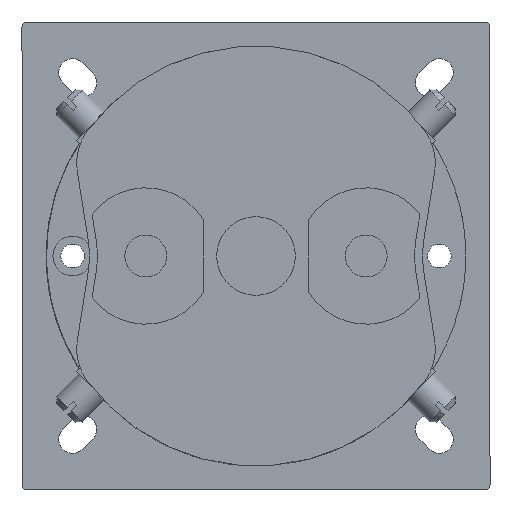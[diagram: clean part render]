
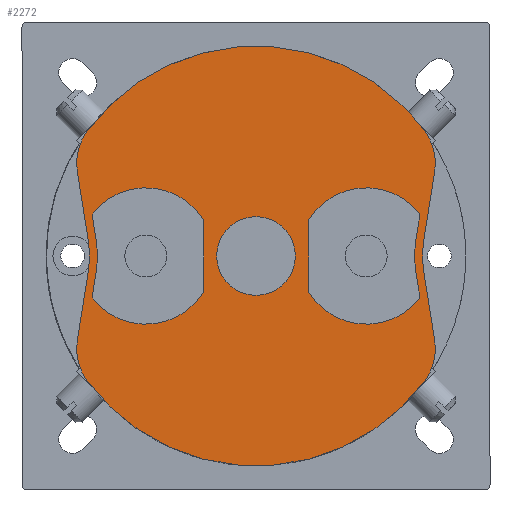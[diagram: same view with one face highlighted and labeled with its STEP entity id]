
A CAD part, front view. The second image highlights one B-rep face of the part: STEP entity #2272.
In plain terms, the highlighted planar face has unit normal (0, -1, 0).
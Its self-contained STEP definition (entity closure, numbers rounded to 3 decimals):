
#1221=FACE_BOUND('',#5984,.T.);
#1222=FACE_BOUND('',#5985,.T.);
#1223=FACE_BOUND('',#5986,.T.);
#1224=FACE_BOUND('',#5987,.T.);
#2272=ADVANCED_FACE('',(#1221,#1222,#1223,#1224),#3331,.T.);
#3331=PLANE('',#25322);
#5984=EDGE_LOOP('',(#12137,#12138,#12139,#12140,#12141,#12142));
#5985=EDGE_LOOP('',(#12143,#12144,#12145,#12146,#12147,#12148));
#5986=EDGE_LOOP('',(#12149,#12150,#12151,#12152,#12153,#12154,#12155,#12156,
#12157,#12158,#12159,#12160));
#5987=EDGE_LOOP('',(#12161));
#6882=CIRCLE('',#25294,7.5);
#6883=CIRCLE('',#25296,13.);
#6884=CIRCLE('',#25299,21.5);
#6885=CIRCLE('',#25302,13.);
#6886=CIRCLE('',#25305,21.5);
#6887=CIRCLE('',#25308,13.);
#6888=CIRCLE('',#25311,13.);
#6889=CIRCLE('',#25314,10.);
#6890=CIRCLE('',#25315,20.);
#6891=CIRCLE('',#25316,10.);
#6892=CIRCLE('',#25317,40.);
#6893=CIRCLE('',#25318,10.);
#6894=CIRCLE('',#25319,20.);
#6895=CIRCLE('',#25320,10.);
#6896=CIRCLE('',#25321,40.);
#12137=ORIENTED_EDGE('',*,*,#18383,.T.);
#12138=ORIENTED_EDGE('',*,*,#18381,.T.);
#12139=ORIENTED_EDGE('',*,*,#18379,.T.);
#12140=ORIENTED_EDGE('',*,*,#18377,.T.);
#12141=ORIENTED_EDGE('',*,*,#18375,.T.);
#12142=ORIENTED_EDGE('',*,*,#18372,.T.);
#12143=ORIENTED_EDGE('',*,*,#18371,.F.);
#12144=ORIENTED_EDGE('',*,*,#18369,.F.);
#12145=ORIENTED_EDGE('',*,*,#18367,.F.);
#12146=ORIENTED_EDGE('',*,*,#18365,.F.);
#12147=ORIENTED_EDGE('',*,*,#18363,.F.);
#12148=ORIENTED_EDGE('',*,*,#18360,.F.);
#12149=ORIENTED_EDGE('',*,*,#18384,.T.);
#12150=ORIENTED_EDGE('',*,*,#18385,.T.);
#12151=ORIENTED_EDGE('',*,*,#18386,.T.);
#12152=ORIENTED_EDGE('',*,*,#18387,.T.);
#12153=ORIENTED_EDGE('',*,*,#18388,.T.);
#12154=ORIENTED_EDGE('',*,*,#18389,.T.);
#12155=ORIENTED_EDGE('',*,*,#18390,.T.);
#12156=ORIENTED_EDGE('',*,*,#18391,.T.);
#12157=ORIENTED_EDGE('',*,*,#18392,.T.);
#12158=ORIENTED_EDGE('',*,*,#18393,.T.);
#12159=ORIENTED_EDGE('',*,*,#18394,.T.);
#12160=ORIENTED_EDGE('',*,*,#18395,.T.);
#12161=ORIENTED_EDGE('',*,*,#18359,.F.);
#15329=VERTEX_POINT('',#39720);
#15330=VERTEX_POINT('',#39723);
#15331=VERTEX_POINT('',#39724);
#15332=VERTEX_POINT('',#39729);
#15333=VERTEX_POINT('',#39733);
#15334=VERTEX_POINT('',#39737);
#15335=VERTEX_POINT('',#39741);
#15336=VERTEX_POINT('',#39747);
#15337=VERTEX_POINT('',#39748);
#15338=VERTEX_POINT('',#39753);
#15339=VERTEX_POINT('',#39757);
#15340=VERTEX_POINT('',#39761);
#15341=VERTEX_POINT('',#39765);
#15342=VERTEX_POINT('',#39771);
#15343=VERTEX_POINT('',#39772);
#15344=VERTEX_POINT('',#39774);
#15345=VERTEX_POINT('',#39776);
#15346=VERTEX_POINT('',#39778);
#15347=VERTEX_POINT('',#39780);
#15348=VERTEX_POINT('',#39782);
#15349=VERTEX_POINT('',#39784);
#15350=VERTEX_POINT('',#39786);
#15351=VERTEX_POINT('',#39788);
#15352=VERTEX_POINT('',#39790);
#15353=VERTEX_POINT('',#39792);
#18359=EDGE_CURVE('',#15329,#15329,#6882,.T.);
#18360=EDGE_CURVE('',#15330,#15331,#6883,.T.);
#18363=EDGE_CURVE('',#15331,#15332,#20869,.T.);
#18365=EDGE_CURVE('',#15332,#15333,#6884,.T.);
#18367=EDGE_CURVE('',#15333,#15334,#20872,.T.);
#18369=EDGE_CURVE('',#15334,#15335,#6885,.T.);
#18371=EDGE_CURVE('',#15335,#15330,#20875,.T.);
#18372=EDGE_CURVE('',#15336,#15337,#6886,.T.);
#18375=EDGE_CURVE('',#15338,#15336,#20878,.T.);
#18377=EDGE_CURVE('',#15339,#15338,#6887,.T.);
#18379=EDGE_CURVE('',#15340,#15339,#20881,.T.);
#18381=EDGE_CURVE('',#15341,#15340,#6888,.T.);
#18383=EDGE_CURVE('',#15337,#15341,#20884,.T.);
#18384=EDGE_CURVE('',#15342,#15343,#6889,.T.);
#18385=EDGE_CURVE('',#15343,#15344,#20885,.T.);
#18386=EDGE_CURVE('',#15344,#15345,#6890,.T.);
#18387=EDGE_CURVE('',#15345,#15346,#20886,.T.);
#18388=EDGE_CURVE('',#15346,#15347,#6891,.T.);
#18389=EDGE_CURVE('',#15347,#15348,#6892,.T.);
#18390=EDGE_CURVE('',#15348,#15349,#6893,.T.);
#18391=EDGE_CURVE('',#15349,#15350,#20887,.T.);
#18392=EDGE_CURVE('',#15350,#15351,#6894,.T.);
#18393=EDGE_CURVE('',#15351,#15352,#20888,.T.);
#18394=EDGE_CURVE('',#15352,#15353,#6895,.T.);
#18395=EDGE_CURVE('',#15353,#15342,#6896,.T.);
#20869=LINE('',#39728,#23202);
#20872=LINE('',#39736,#23205);
#20875=LINE('',#39744,#23208);
#20878=LINE('',#39752,#23211);
#20881=LINE('',#39760,#23214);
#20884=LINE('',#39768,#23217);
#20885=LINE('',#39773,#23218);
#20886=LINE('',#39777,#23219);
#20887=LINE('',#39785,#23220);
#20888=LINE('',#39789,#23221);
#23202=VECTOR('',#30881,1.);
#23205=VECTOR('',#30890,1.);
#23208=VECTOR('',#30899,1.);
#23211=VECTOR('',#30908,1.);
#23214=VECTOR('',#30917,1.);
#23217=VECTOR('',#30926,1.);
#23218=VECTOR('',#30931,1.);
#23219=VECTOR('',#30934,1.);
#23220=VECTOR('',#30941,1.);
#23221=VECTOR('',#30944,1.);
#25294=AXIS2_PLACEMENT_3D('',#39719,#30871,#30872);
#25296=AXIS2_PLACEMENT_3D('',#39722,#30875,#30876);
#25299=AXIS2_PLACEMENT_3D('',#39732,#30885,#30886);
#25302=AXIS2_PLACEMENT_3D('',#39740,#30894,#30895);
#25305=AXIS2_PLACEMENT_3D('',#39746,#30902,#30903);
#25308=AXIS2_PLACEMENT_3D('',#39756,#30912,#30913);
#25311=AXIS2_PLACEMENT_3D('',#39764,#30921,#30922);
#25314=AXIS2_PLACEMENT_3D('',#39770,#30929,#30930);
#25315=AXIS2_PLACEMENT_3D('',#39775,#30932,#30933);
#25316=AXIS2_PLACEMENT_3D('',#39779,#30935,#30936);
#25317=AXIS2_PLACEMENT_3D('',#39781,#30937,#30938);
#25318=AXIS2_PLACEMENT_3D('',#39783,#30939,#30940);
#25319=AXIS2_PLACEMENT_3D('',#39787,#30942,#30943);
#25320=AXIS2_PLACEMENT_3D('',#39791,#30945,#30946);
#25321=AXIS2_PLACEMENT_3D('',#39793,#30947,#30948);
#25322=AXIS2_PLACEMENT_3D('',#39794,#30949,#30950);
#30871=DIRECTION('',(0.,-1.,0.));
#30872=DIRECTION('',(0.,0.,-1.));
#30875=DIRECTION('',(0.,-1.,0.));
#30876=DIRECTION('',(1.,0.,0.));
#30881=DIRECTION('',(-0.156,0.,0.988));
#30885=DIRECTION('',(0.,1.,0.));
#30886=DIRECTION('',(1.,0.,0.));
#30890=DIRECTION('',(0.156,0.,0.988));
#30894=DIRECTION('',(0.,-1.,0.));
#30895=DIRECTION('',(1.,0.,0.));
#30899=DIRECTION('',(0.,0.,-1.));
#30902=DIRECTION('',(0.,-1.,0.));
#30903=DIRECTION('',(1.,0.,0.));
#30908=DIRECTION('',(0.156,0.,0.988));
#30912=DIRECTION('',(0.,1.,0.));
#30913=DIRECTION('',(1.,0.,0.));
#30917=DIRECTION('',(0.,0.,-1.));
#30921=DIRECTION('',(0.,1.,0.));
#30922=DIRECTION('',(1.,0.,0.));
#30926=DIRECTION('',(-0.156,0.,0.988));
#30929=DIRECTION('',(0.,-1.,0.));
#30930=DIRECTION('',(0.,0.,-1.));
#30931=DIRECTION('',(0.156,0.,-0.988));
#30932=DIRECTION('',(0.,1.,0.));
#30933=DIRECTION('',(0.,0.,-1.));
#30934=DIRECTION('',(-0.156,0.,-0.988));
#30935=DIRECTION('',(0.,-1.,0.));
#30936=DIRECTION('',(0.,0.,-1.));
#30937=DIRECTION('',(0.,-1.,0.));
#30938=DIRECTION('',(0.,0.,-1.));
#30939=DIRECTION('',(0.,-1.,0.));
#30940=DIRECTION('',(0.,0.,-1.));
#30941=DIRECTION('',(-0.156,0.,0.988));
#30942=DIRECTION('',(0.,1.,0.));
#30943=DIRECTION('',(0.,0.,-1.));
#30944=DIRECTION('',(0.156,0.,0.988));
#30945=DIRECTION('',(0.,-1.,0.));
#30946=DIRECTION('',(0.,0.,-1.));
#30947=DIRECTION('',(0.,-1.,0.));
#30948=DIRECTION('',(0.,0.,-1.));
#30949=DIRECTION('',(0.,-1.,0.));
#30950=DIRECTION('',(0.,0.,-1.));
#39719=CARTESIAN_POINT('',(0.,-170.5,0.));
#39720=CARTESIAN_POINT('',(0.,-170.5,-7.5));
#39722=CARTESIAN_POINT('',(21.031,-170.5,0.));
#39723=CARTESIAN_POINT('',(10.031,-170.5,-6.928));
#39724=CARTESIAN_POINT('',(31.253,-170.5,-8.032));
#39728=CARTESIAN_POINT('',(31.253,-170.5,-8.032));
#39729=CARTESIAN_POINT('',(30.514,-170.5,-3.363));
#39732=CARTESIAN_POINT('',(51.749,-170.5,0.));
#39733=CARTESIAN_POINT('',(30.514,-170.5,3.363));
#39736=CARTESIAN_POINT('',(30.514,-170.5,3.363));
#39737=CARTESIAN_POINT('',(31.253,-170.5,8.032));
#39740=CARTESIAN_POINT('',(21.031,-170.5,0.));
#39741=CARTESIAN_POINT('',(10.031,-170.5,6.928));
#39744=CARTESIAN_POINT('',(10.031,-170.5,6.928));
#39746=CARTESIAN_POINT('',(-51.749,-170.5,0.));
#39747=CARTESIAN_POINT('',(-30.514,-170.5,-3.363));
#39748=CARTESIAN_POINT('',(-30.514,-170.5,3.363));
#39752=CARTESIAN_POINT('',(-31.248,-170.5,-7.998));
#39753=CARTESIAN_POINT('',(-31.248,-170.5,-7.998));
#39756=CARTESIAN_POINT('',(-21.,-170.5,0.));
#39757=CARTESIAN_POINT('',(-10.,-170.5,-6.928));
#39760=CARTESIAN_POINT('',(-10.,-170.5,6.928));
#39761=CARTESIAN_POINT('',(-10.,-170.5,6.928));
#39764=CARTESIAN_POINT('',(-21.,-170.5,0.));
#39765=CARTESIAN_POINT('',(-31.248,-170.5,7.998));
#39768=CARTESIAN_POINT('',(-30.514,-170.5,3.363));
#39770=CARTESIAN_POINT('',(-24.186,-170.5,17.749));
#39771=CARTESIAN_POINT('',(-32.249,-170.5,23.665));
#39772=CARTESIAN_POINT('',(-34.063,-170.5,16.184));
#39773=CARTESIAN_POINT('',(-34.063,-170.5,16.184));
#39774=CARTESIAN_POINT('',(-31.996,-170.5,3.129));
#39775=CARTESIAN_POINT('',(-51.749,-170.5,0.));
#39776=CARTESIAN_POINT('',(-31.996,-170.5,-3.129));
#39777=CARTESIAN_POINT('',(-31.996,-170.5,-3.129));
#39778=CARTESIAN_POINT('',(-34.063,-170.5,-16.184));
#39779=CARTESIAN_POINT('',(-24.186,-170.5,-17.749));
#39780=CARTESIAN_POINT('',(-32.249,-170.5,-23.665));
#39781=CARTESIAN_POINT('',(0.,-170.5,0.));
#39782=CARTESIAN_POINT('',(32.249,-170.5,-23.665));
#39783=CARTESIAN_POINT('',(24.186,-170.5,-17.749));
#39784=CARTESIAN_POINT('',(34.063,-170.5,-16.184));
#39785=CARTESIAN_POINT('',(34.063,-170.5,-16.184));
#39786=CARTESIAN_POINT('',(31.996,-170.5,-3.129));
#39787=CARTESIAN_POINT('',(51.749,-170.5,0.));
#39788=CARTESIAN_POINT('',(31.996,-170.5,3.129));
#39789=CARTESIAN_POINT('',(31.996,-170.5,3.129));
#39790=CARTESIAN_POINT('',(34.063,-170.5,16.184));
#39791=CARTESIAN_POINT('',(24.186,-170.5,17.749));
#39792=CARTESIAN_POINT('',(32.249,-170.5,23.665));
#39793=CARTESIAN_POINT('',(0.,-170.5,0.));
#39794=CARTESIAN_POINT('',(-24.186,-170.5,17.749));
